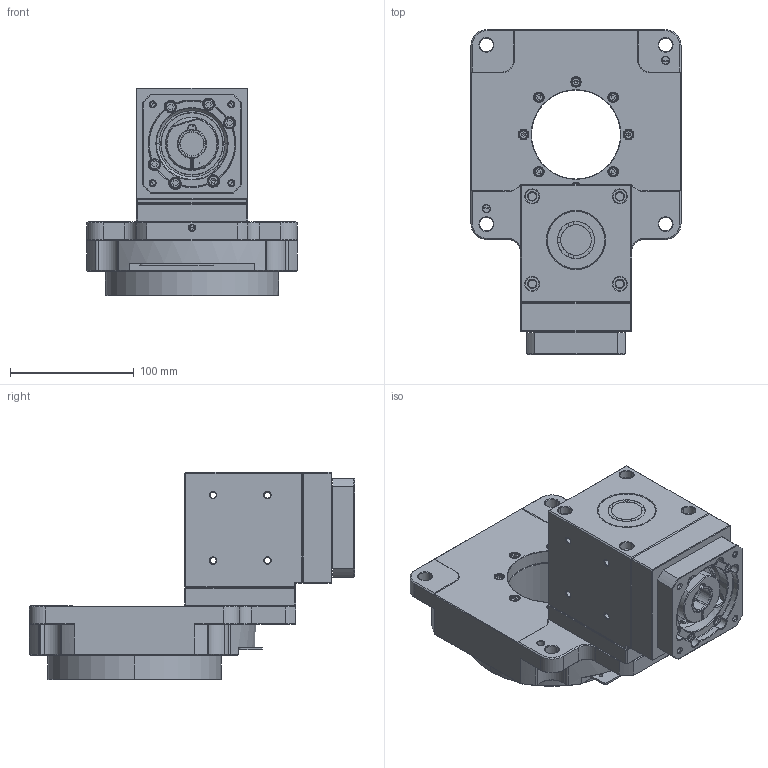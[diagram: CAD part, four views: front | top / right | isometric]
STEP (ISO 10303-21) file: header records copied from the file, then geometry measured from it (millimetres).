
FILE_DESCRIPTION (( 'STEP AP203' ), '1' );
FILE_NAME ('HRG170Z.STEP', '2020-06-24T05:41:37', ( '' ), ( '' ), 'SwSTEP 2.0', 'SolidWorks 2012', '' );
FILE_SCHEMA (( 'CONFIG_CONTROL_DESIGN' ));
Length unit declared in the file: millimetre
Products named in the file (1): HRG170Z
Bounding box: 170 x 263.06 x 168 mm (x, y, z)
Surface area: 227399.1 mm2 (no closed solid volume)
Topology: 0 solids, 51 shells, 844 faces, 2709 edges, 1871 vertices
Faces by surface type: plane 346, cylinder 224, cone 222, torus 43, bspline 9
Entity records: 33953 total; most frequent: CARTESIAN_POINT 10007, DIRECTION 5142, ORIENTED_EDGE 4435, EDGE_CURVE 2699, VERTEX_POINT 1871, AXIS2_PLACEMENT_3D 1867, VECTOR 1408, LINE 1408
